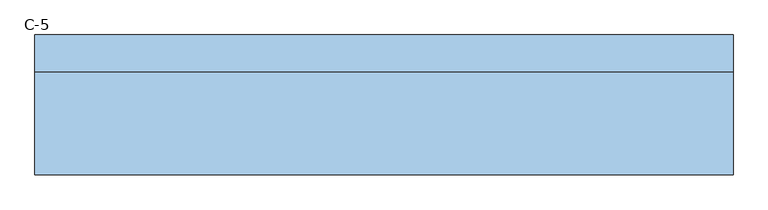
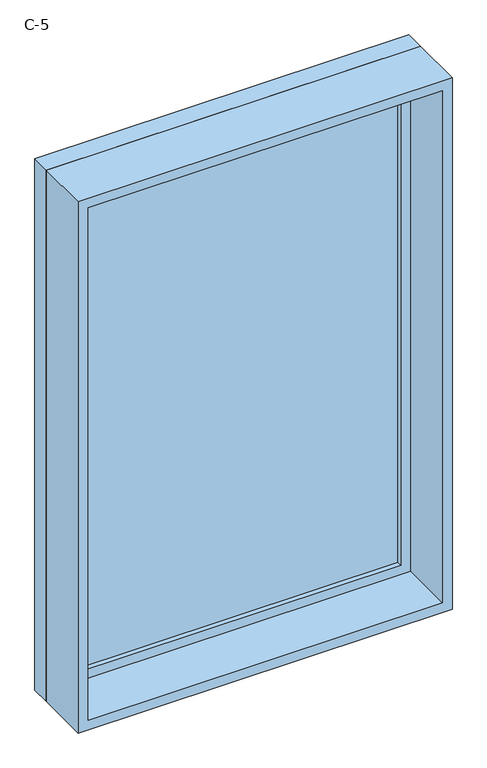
"""IFC4 building model written with IfcOpenShell, lengths in millimetres: window geometry, 固定 : C-5."""

from ifc_helpers import new_model, si_unit, frame, origin, place, context, project, spatial, polyline, outline, extrude, source, transform, mapped, element, save


def c_5_6d0c946b(model_context):
    return source(origin(), model_context, "Body", "SweptSolid", [
        extrude(outline(polyline([(-537.0, 98.0), (537.0, 98.0), (537.0, 86.0), (-537.0, 86.0), (-537.0, 98.0)])), frame((0.0, 0.0, 1663.0), z_axis=(0.0, 0.0, 1.0), x_axis=(1.0, 0.0, 0.0)), (0.0, 0.0, 1.0), 1674.0),
        extrude(outline(polyline([(3381.0, -581.0), (1619.0, -581.0), (1619.0, 581.0), (3381.0, 581.0), (3381.0, -581.0)]), holes=[polyline([(3337.0, -537.0), (3337.0, 537.0), (1663.0, 537.0), (1663.0, -537.0), (3337.0, -537.0)])]), frame((0.0, 70.0, 0.0), z_axis=(0.0, 1.0, 0.0), x_axis=(0.0, 0.0, 1.0)), (0.0, 0.0, 1.0), 44.0),
        extrude(outline(polyline([(3400.0, -600.0), (1600.0, -600.0), (1600.0, 600.0), (3400.0, 600.0), (3400.0, -600.0)]), holes=[polyline([(3381.0, -581.0), (3381.0, 581.0), (1619.0, 581.0), (1619.0, -581.0), (3381.0, -581.0)])]), frame((0.0, 70.0, 0.0), z_axis=(0.0, 1.0, 0.0), x_axis=(0.0, 0.0, 1.0)), (0.0, 0.0, 1.0), 63.0),
        extrude(outline(polyline([(3400.0, -600.0), (1600.0, -600.0), (1600.0, 600.0), (3400.0, 600.0), (3400.0, -600.0)]), holes=[polyline([(3368.0, -568.0), (3368.0, 568.0), (1632.0, 568.0), (1632.0, -568.0), (3368.0, -568.0)])]), frame((0.0, -107.0, 0.0), z_axis=(0.0, 1.0, 0.0), x_axis=(0.0, 0.0, 1.0)), (0.0, 0.0, 1.0), 177.0),
    ])


if __name__ == "__main__":
    model = new_model("IFC4")
    model_context = context("Model", 3, world=origin())
    ifc_project = project(units=[si_unit("LENGTHUNIT", "METRE", prefix="MILLI")], contexts=[model_context])
    site = spatial("IfcSite", under=ifc_project)
    building = spatial("IfcBuilding", under=site)
    placement = place(None, origin())
    c_5_shape = c_5_6d0c946b(model_context)
    element("IfcWindow", 1, ObjectType="固定 : C-5", at=placement, inside=building, context=model_context, shape_type="MappedRepresentation", body=[
        mapped(c_5_shape, transform((0.0, 0.0, 0.0), x_axis=(1.0, 0.0, 0.0), y_axis=(0.0, 1.0, 0.0), z_axis=(0.0, 0.0, 1.0))),
    ])
    save(model, "model.ifc")
